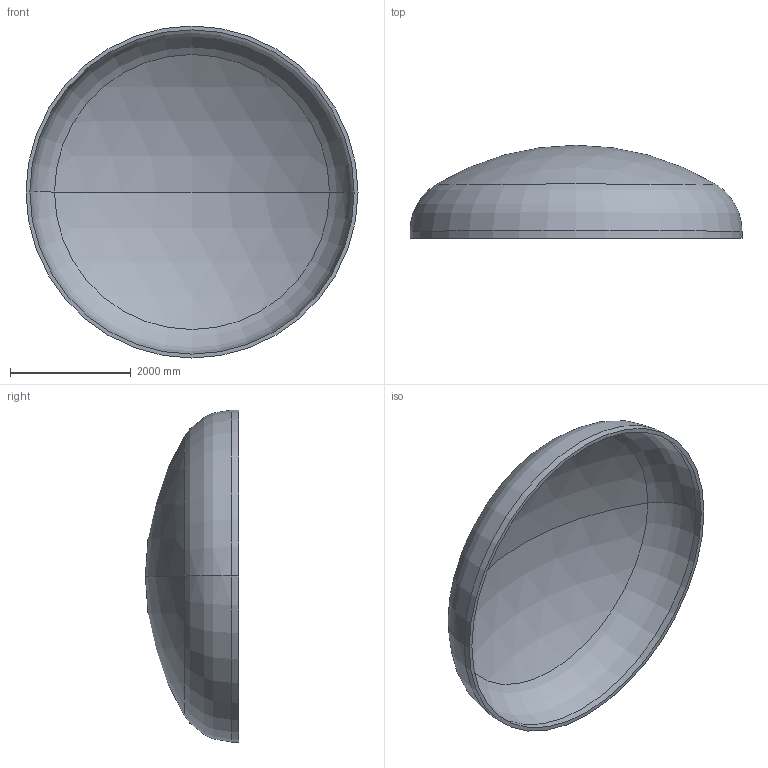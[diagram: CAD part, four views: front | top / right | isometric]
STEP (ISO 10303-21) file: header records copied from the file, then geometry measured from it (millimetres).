
FILE_DESCRIPTION (( 'STEP AP203' ), '1' );
FILE_NAME ('DIN 28013 Korbbogenform_-_Boden DIN 28013 - 5500 x 120 - I - s=64.step', '2016-07-04T10:34:36', ( '' ), ( '' ), 'SwSTEP 2.0', 'SolidWorks 2013', '' );
FILE_SCHEMA (( 'CONFIG_CONTROL_DESIGN' ));
Length unit declared in the file: millimetre
Products named in the file (1): DIN 28013 Korbbogenform_-_Boden DIN 28013 - 5500 x 120 - I - s=64
Bounding box: 5500 x 1542.83 x 5500 mm (x, y, z)
Volume: 2203953157.1 mm3; surface area: 69975061.5 mm2
Topology: 1 solids, 1 shells, 13 faces, 24 edges, 14 vertices
Faces by surface type: torus 4, cylinder 4, sphere 4, plane 1
Entity records: 407 total; most frequent: DIRECTION 72, CARTESIAN_POINT 52, ORIENTED_EDGE 48, AXIS2_PLACEMENT_3D 34, EDGE_CURVE 24, CIRCLE 20, VERTEX_POINT 14, EDGE_LOOP 14
